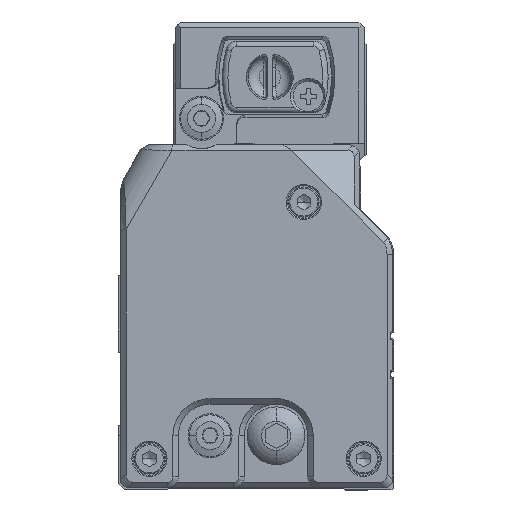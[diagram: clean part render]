
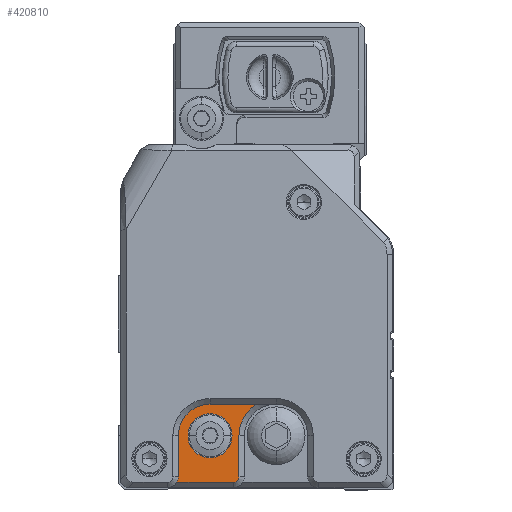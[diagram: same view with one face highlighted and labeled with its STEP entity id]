
A CAD part, left-side view. The second image highlights one B-rep face of the part: STEP entity #420810.
In plain terms, the highlighted planar face has unit normal (-1, 0, 0) as drawn and (1, 0, 0) by its records, which use the part's own axes.
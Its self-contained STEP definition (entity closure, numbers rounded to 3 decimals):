
#419000=CARTESIAN_POINT('',(664.177,8.212,
10.598));
#419010=VERTEX_POINT('',#419000);
#419040=CARTESIAN_POINT('',(664.177,10.212,
10.598));
#419050=DIRECTION('',(-1.,0.,0.));
#419060=DIRECTION('',(0.,1.,0.));
#419070=AXIS2_PLACEMENT_3D('',#419040,#419050,#419060);
#419080=CIRCLE('',#419070,2.);
#419090=CARTESIAN_POINT('',(664.177,8.48,
11.598));
#419100=VERTEX_POINT('',#419090);
#419110=EDGE_CURVE('',#419010,#419100,#419080,.T.);
#419470=CARTESIAN_POINT('',(664.177,8.212,
3.148));
#419480=VERTEX_POINT('',#419470);
#419530=CARTESIAN_POINT('',(664.177,8.212,
3.148));
#419540=DIRECTION('',(0.,0.,1.));
#419550=VECTOR('',#419540,1.);
#419560=LINE('',#419530,#419550);
#419570=EDGE_CURVE('',#419480,#419010,#419560,.T.);
#419810=CARTESIAN_POINT('',(664.177,2.462,
3.148));
#419820=DIRECTION('',(-1.,0.,0.));
#419830=DIRECTION('',(0.,1.,0.));
#419840=AXIS2_PLACEMENT_3D('',#419810,#419820,#419830);
#419850=CIRCLE('',#419840,5.75);
#419860=CARTESIAN_POINT('',(664.177,2.462,
-2.602));
#419870=VERTEX_POINT('',#419860);
#419880=EDGE_CURVE('',#419480,#419870,#419850,.T.);
#420160=CARTESIAN_POINT('',(664.177,-5.938,
-12.8));
#420170=DIRECTION('',(-1.,0.,0.));
#420180=DIRECTION('',(0.,0.,-1.));
#420190=AXIS2_PLACEMENT_3D('',#420160,#420170,#420180);
#420200=PLANE('',#420190);
#420210=CARTESIAN_POINT('',(664.177,4.212,
11.598));
#420220=DIRECTION('',(0.,-1.,0.));
#420230=VECTOR('',#420220,1.);
#420240=LINE('',#420210,#420230);
#420250=CARTESIAN_POINT('',(664.177,-1.788,
11.598));
#420260=VERTEX_POINT('',#420250);
#420270=EDGE_CURVE('',#419100,#420260,#420240,.T.);
#420280=ORIENTED_EDGE('',*,*,#420270,.T.);
#420290=ORIENTED_EDGE('',*,*,#419110,.T.);
#420300=ORIENTED_EDGE('',*,*,#419570,.T.);
#420310=ORIENTED_EDGE('',*,*,#419880,.F.);
#420320=CARTESIAN_POINT('',(664.177,-5.888,
-2.602));
#420330=DIRECTION('',(0.,1.,0.));
#420340=VECTOR('',#420330,1.);
#420350=LINE('',#420320,#420340);
#420360=CARTESIAN_POINT('',(664.177,-6.002,
-2.602));
#420370=VERTEX_POINT('',#420360);
#420380=EDGE_CURVE('',#420370,#419870,#420350,.T.);
#420390=ORIENTED_EDGE('',*,*,#420380,.T.);
#420400=CARTESIAN_POINT('',(664.177,-9.538,
3.148));
#420410=DIRECTION('',(-1.,0.,0.));
#420420=DIRECTION('',(0.,1.,0.));
#420430=AXIS2_PLACEMENT_3D('',#420400,#420410,#420420);
#420440=CIRCLE('',#420430,6.75);
#420450=CARTESIAN_POINT('',(664.177,-2.788,
3.148));
#420460=VERTEX_POINT('',#420450);
#420470=EDGE_CURVE('',#420460,#420370,#420440,.T.);
#420480=ORIENTED_EDGE('',*,*,#420470,.T.);
#420490=CARTESIAN_POINT('',(664.177,-2.788,
6.873));
#420500=DIRECTION('',(0.,0.,-1.));
#420510=VECTOR('',#420500,1.);
#420520=LINE('',#420490,#420510);
#420530=CARTESIAN_POINT('',(664.177,-2.788,
10.598));
#420540=VERTEX_POINT('',#420530);
#420550=EDGE_CURVE('',#420540,#420460,#420520,.T.);
#420560=ORIENTED_EDGE('',*,*,#420550,.T.);
#420570=CARTESIAN_POINT('',(664.177,-1.788,
10.598));
#420580=DIRECTION('',(-1.,0.,0.));
#420590=DIRECTION('',(0.,1.,0.));
#420600=AXIS2_PLACEMENT_3D('',#420570,#420580,#420590);
#420610=CIRCLE('',#420600,1.);
#420620=EDGE_CURVE('',#420540,#420260,#420610,.T.);
#420630=ORIENTED_EDGE('',*,*,#420620,.F.);
#420640=EDGE_LOOP('',(#420630,#420560,#420480,#420390,#420310,#420300,
#420290,#420280));
#420650=FACE_OUTER_BOUND('',#420640,.T.);
#420660=CARTESIAN_POINT('',(664.177,2.462,
3.148));
#420670=DIRECTION('',(-1.,0.,0.));
#420680=DIRECTION('',(0.,0.,-1.));
#420690=AXIS2_PLACEMENT_3D('',#420660,#420670,#420680);
#420700=CIRCLE('',#420690,4.);
#420710=CARTESIAN_POINT('',(664.177,2.462,
-0.852));
#420720=VERTEX_POINT('',#420710);
#420730=CARTESIAN_POINT('',(664.177,2.462,
7.148));
#420740=VERTEX_POINT('',#420730);
#420750=EDGE_CURVE('',#420720,#420740,#420700,.T.);
#420760=ORIENTED_EDGE('',*,*,#420750,.T.);
#420770=EDGE_CURVE('',#420740,#420720,#420700,.T.);
#420780=ORIENTED_EDGE('',*,*,#420770,.T.);
#420790=EDGE_LOOP('',(#420780,#420760));
#420800=FACE_BOUND('',#420790,.T.);
#420810=ADVANCED_FACE('',(#420650,#420800),#420200,.F.);
